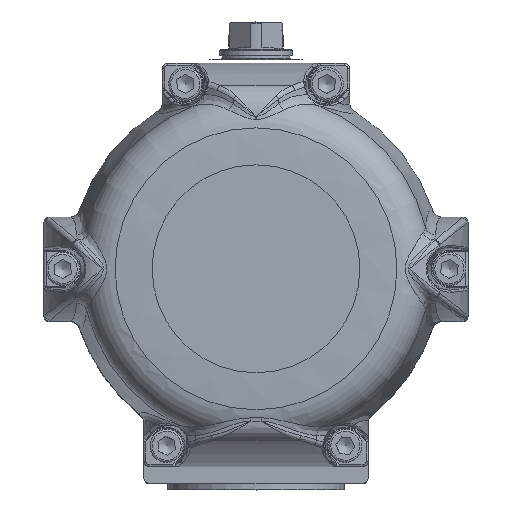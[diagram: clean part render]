
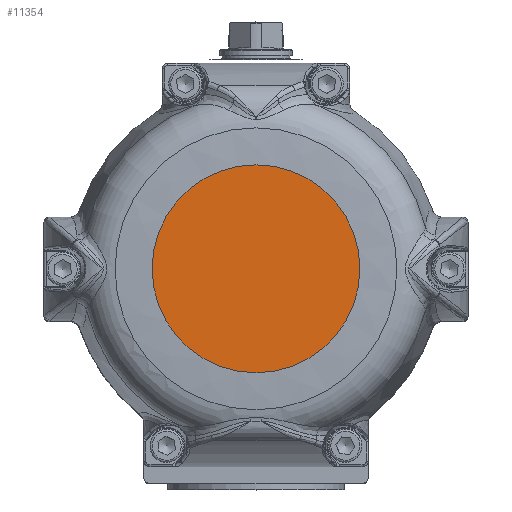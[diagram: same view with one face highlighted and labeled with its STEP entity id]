
A CAD part, top view. The second image highlights one B-rep face of the part: STEP entity #11354.
In plain terms, the highlighted planar face has unit normal (0, 0, 1).
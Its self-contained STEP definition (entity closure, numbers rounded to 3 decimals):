
#2263=PLANE('',#12260);
#2794=FACE_OUTER_BOUND('',#3484,.T.);
#3484=EDGE_LOOP('',(#8932,#8933));
#4124=CIRCLE('',#12261,50.);
#4125=CIRCLE('',#12262,50.);
#5035=VERTEX_POINT('',#21434);
#5036=VERTEX_POINT('',#21435);
#6535=EDGE_CURVE('',#5035,#5036,#4124,.T.);
#6536=EDGE_CURVE('',#5036,#5035,#4125,.T.);
#8932=ORIENTED_EDGE('',*,*,#6535,.F.);
#8933=ORIENTED_EDGE('',*,*,#6536,.F.);
#11354=ADVANCED_FACE('',(#2794),#2263,.T.);
#12260=AXIS2_PLACEMENT_3D('',#21433,#14234,#14235);
#12261=AXIS2_PLACEMENT_3D('',#21436,#14236,#14237);
#12262=AXIS2_PLACEMENT_3D('',#21437,#14238,#14239);
#14234=DIRECTION('center_axis',(0.,0.,
1.));
#14235=DIRECTION('ref_axis',(-1.,0.,0.));
#14236=DIRECTION('center_axis',(0.,0.,
-1.));
#14237=DIRECTION('ref_axis',(1.,0.,0.));
#14238=DIRECTION('center_axis',(0.,0.,
-1.));
#14239=DIRECTION('ref_axis',(1.,0.,0.));
#21433=CARTESIAN_POINT('Origin',(25.,0.,182.6));
#21434=CARTESIAN_POINT('',(50.,0.,182.6));
#21435=CARTESIAN_POINT('',(-50.,0.,182.6));
#21436=CARTESIAN_POINT('Origin',(0.,0.,
182.6));
#21437=CARTESIAN_POINT('Origin',(0.,0.,
182.6));
